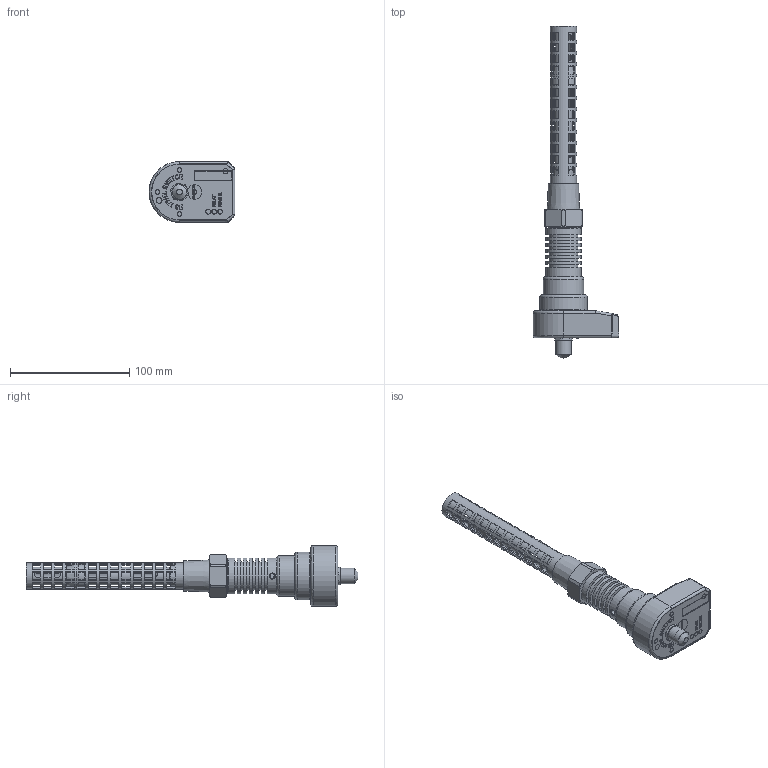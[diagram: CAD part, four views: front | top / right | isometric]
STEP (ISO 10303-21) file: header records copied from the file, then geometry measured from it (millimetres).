
FILE_DESCRIPTION((''),'2;1');
FILE_NAME('\\hbpdc01\Data\Mekanisk design\HBSO1-LT\5. STEP files\HBSO1-SSR-LT-R1.stp','2018-03-22T13:14:20',('KC'),(''),'Autodesk Inventor 2013','Autodesk Inventor 2013','');
FILE_SCHEMA(('AUTOMOTIVE_DESIGN { 1 0 10303 214 1 1 1 1 }'));
Length unit declared in the file: millimetre
Products named in the file (1): HBSO1-SSR-LT-R1
Bounding box: 72 x 278.2 x 51 mm (x, y, z)
Surface area: 83226.4 mm2
Topology: 37 solids, 38 shells, 1559 faces, 4167 edges, 2712 vertices
Faces by surface type: plane 1012, cylinder 236, bspline 175, cone 71, torus 58, sphere 7
Full cylindrical faces by diameter (mm): 0.5 x2, 1.003 x1, 1.8 x2, 2.459 x2, 2.729 x1, 2.8 x1, 3 x3, 3.2 x2, 3.6 x5, 3.8 x1, 4 x18, 4.134 x3, 4.2 x1, 4.7 x1, 5 x5, 5.3 x1, 6 x2, 6.1 x1, 6.2 x1, 6.3 x1, 7 x2, 8 x1, 8.5 x1, 9.7 x1, 10 x2, 10.5 x2, 10.55 x2, 11.5 x1, 11.8 x2, 12 x3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
Entity records: 54771 total; most frequent: CARTESIAN_POINT 16233, ORIENTED_EDGE 7684, DIRECTION 7003, EDGE_CURVE 3842, VERTEX_POINT 2583, AXIS2_PLACEMENT_3D 2337, VECTOR 2329, LINE 2329
